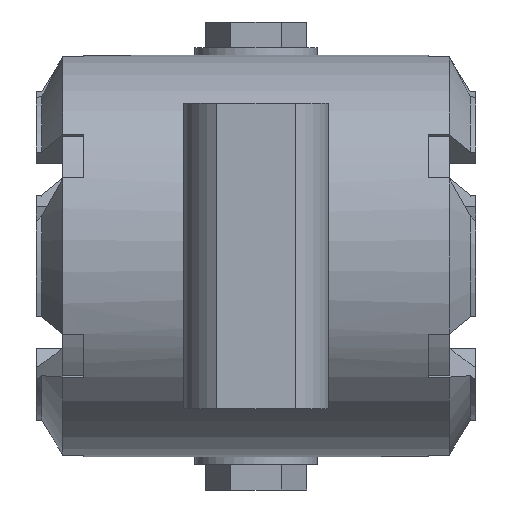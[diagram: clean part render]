
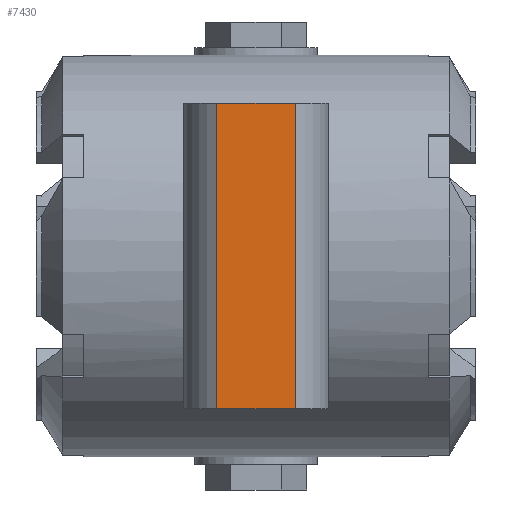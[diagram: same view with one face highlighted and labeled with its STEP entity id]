
A CAD part, front view. The second image highlights one B-rep face of the part: STEP entity #7430.
In plain terms, the highlighted planar face has unit normal (0, -1, 0).
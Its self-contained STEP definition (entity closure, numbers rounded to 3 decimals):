
#3025=LINE('',#43856,#5820);
#3028=LINE('',#44407,#5823);
#3033=LINE('',#44446,#5828);
#3034=LINE('',#44447,#5829);
#5820=VECTOR('',#31424,1.);
#5823=VECTOR('',#31445,1.);
#5828=VECTOR('',#31466,1.);
#5829=VECTOR('',#31467,1.);
#7430=ADVANCED_FACE('',(#9425),#8169,.F.);
#8169=PLANE('',#26699);
#9425=FACE_OUTER_BOUND('',#10869,.T.);
#10869=EDGE_LOOP('',(#18003,#18004,#18005,#18006));
#18003=ORIENTED_EDGE('',*,*,#24062,.F.);
#18004=ORIENTED_EDGE('',*,*,#24034,.T.);
#18005=ORIENTED_EDGE('',*,*,#24063,.F.);
#18006=ORIENTED_EDGE('',*,*,#24048,.F.);
#20454=VERTEX_POINT('',#43857);
#20455=VERTEX_POINT('',#43858);
#20467=VERTEX_POINT('',#44405);
#20469=VERTEX_POINT('',#44408);
#24034=EDGE_CURVE('',#20454,#20455,#3025,.T.);
#24048=EDGE_CURVE('',#20467,#20469,#3028,.T.);
#24062=EDGE_CURVE('',#20454,#20467,#3033,.T.);
#24063=EDGE_CURVE('',#20469,#20455,#3034,.T.);
#26699=AXIS2_PLACEMENT_3D('',#44448,#31468,#31469);
#31424=DIRECTION('',(-1.,0.,0.));
#31445=DIRECTION('',(-1.,0.,0.));
#31466=DIRECTION('',(0.,0.,-1.));
#31467=DIRECTION('',(0.,0.,1.));
#31468=DIRECTION('',(0.,1.,0.));
#31469=DIRECTION('',(-1.,0.,0.));
#43856=CARTESIAN_POINT('',(0.,-20.,40.));
#43857=CARTESIAN_POINT('',(10.247,-20.,40.));
#43858=CARTESIAN_POINT('',(-10.247,-20.,40.));
#44405=CARTESIAN_POINT('',(10.247,-20.,-40.));
#44407=CARTESIAN_POINT('',(0.,-20.,-40.));
#44408=CARTESIAN_POINT('',(-10.247,-20.,-40.));
#44446=CARTESIAN_POINT('',(10.247,-20.,-44.));
#44447=CARTESIAN_POINT('',(-10.247,-20.,-44.));
#44448=CARTESIAN_POINT('',(0.,-20.,0.));
